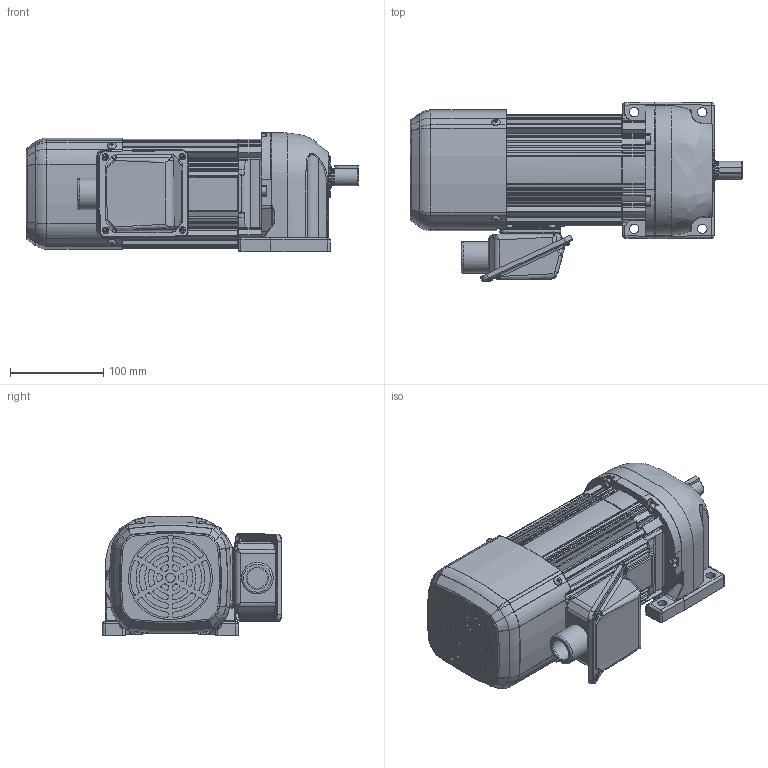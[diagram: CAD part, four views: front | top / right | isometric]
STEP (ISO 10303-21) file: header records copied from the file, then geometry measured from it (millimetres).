
FILE_DESCRIPTION( ( 'Unknown' ), '1' );
FILE_NAME( 'W:/gm/3D-WEB/GV-S/完成品/モータ+減速機/パーツデータ/完成品(GV-S_0.75kw_ブレーキ付_B).stp', 'Unknown', ( 'Unknown' ), ( 'Unknown' ), 'PSStep 11.0', 'Unknown', ' ' );
FILE_SCHEMA( ( 'AUTOMOTIVE_DESIGN { 1 0 10303 214 1 1 1 1 }' ) );
Length unit declared in the file: millimetre
Products named in the file (3): 減速機(GV-S_脚取付0.7
Bounding box: 356 x 192.74 x 127.74 mm (x, y, z)
Volume: 1809445.8 mm3; surface area: 478938.2 mm2
Topology: 3 solids, 23 shells, 1932 faces, 4959 edges, 3156 vertices
Faces by surface type: cylinder 851, plane 777, torus 121, bspline 112, cone 49, sphere 22
Full cylindrical faces by diameter (mm): 3.3 x4, 3.8 x4, 4 x6, 4.134 x12, 4.5 x12, 4.6 x4, 4.917 x1, 5 x7, 5.5 x6, 5.8 x4, 6 x8, 6.2 x1, 6.5 x2, 7 x4, 8.5 x6, 9.7 x4, 10 x6, 14 x1, 15 x1, 15.1 x1, 16 x1, 17.5 x1, 18.7 x1, 19 x1, 20 x2, 21.7 x1, 22 x2, 22.049 x1, 24.1 x1, 24.117 x2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
Entity records: 82896 total; most frequent: CARTESIAN_POINT 21267, DIRECTION 10027, ORIENTED_EDGE 9302, EDGE_CURVE 4651, AXIS2_PLACEMENT_3D 3911, VERTEX_POINT 3052, EDGE_LOOP 2258, LINE 2205
